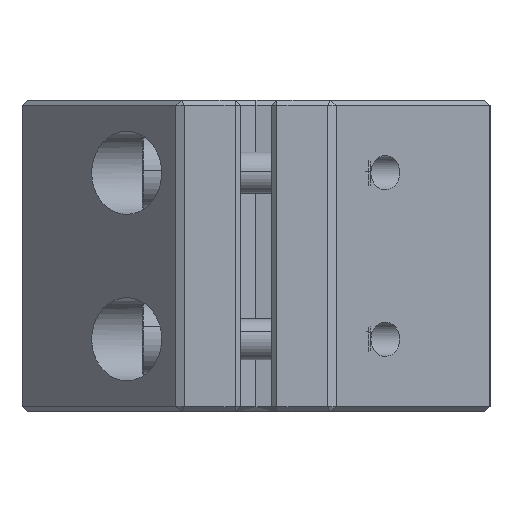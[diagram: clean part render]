
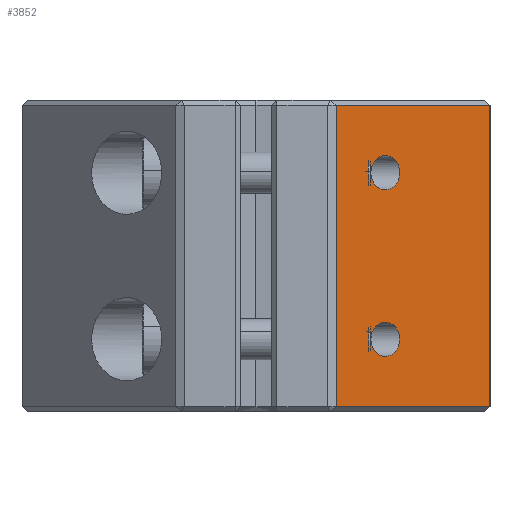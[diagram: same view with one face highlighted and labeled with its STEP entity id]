
A CAD part, left-side view. The second image highlights one B-rep face of the part: STEP entity #3852.
In plain terms, the highlighted planar face has unit normal (-0.643, -0.766, 0).
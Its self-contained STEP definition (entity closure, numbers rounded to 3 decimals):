
#166 = ORIENTED_EDGE ( 'NONE', *, *, #4554, .T. ) ;
#227 = CARTESIAN_POINT ( 'NONE',  ( -36.7, -15.2, 5.35 ) ) ;
#289 = CARTESIAN_POINT ( 'NONE',  ( -45.617, -7.718, 0.5 ) ) ;
#398 = ORIENTED_EDGE ( 'NONE', *, *, #6277, .T. ) ;
#475 = FACE_BOUND ( 'NONE', #1945, .T. ) ;
#567 = CARTESIAN_POINT ( 'NONE',  ( -45.617, -7.718, 29.5 ) ) ;
#625 = CARTESIAN_POINT ( 'NONE',  ( -40., -12.431, 8.65 ) ) ;
#701 = VERTEX_POINT ( 'NONE', #567 ) ;
#703 = VECTOR ( 'NONE', #8108, 1000. ) ;
#1350 =( BOUNDED_CURVE ( )  B_SPLINE_CURVE ( 3, ( #3798, #6950, #10087, #3018 ),
 .UNSPECIFIED., .F., .F. ) 
 B_SPLINE_CURVE_WITH_KNOTS ( ( 4, 4 ),
 ( 4.712, 7.854 ),
 .UNSPECIFIED. ) 
 CURVE ( )  GEOMETRIC_REPRESENTATION_ITEM ( )  RATIONAL_B_SPLINE_CURVE ( ( 1., 0.333, 0.333, 1. ) ) 
 REPRESENTATION_ITEM ( '' )  );
#1404 = ORIENTED_EDGE ( 'NONE', *, *, #7867, .T. ) ;
#1423 = EDGE_LOOP ( 'NONE', ( #2267, #1404, #7214, #1812 ) ) ;
#1625 = VERTEX_POINT ( 'NONE', #625 ) ;
#1812 = ORIENTED_EDGE ( 'NONE', *, *, #5872, .T. ) ;
#1820 = LINE ( 'NONE', #4960, #703 ) ;
#1945 = EDGE_LOOP ( 'NONE', ( #398, #4738 ) ) ;
#2202 = AXIS2_PLACEMENT_3D ( 'NONE', #6763, #9907, #2837 ) ;
#2267 = ORIENTED_EDGE ( 'NONE', *, *, #6300, .T. ) ;
#2604 = DIRECTION ( 'NONE',  ( -0.766, 0.643, 0. ) ) ;
#2837 = DIRECTION ( 'NONE',  ( 0., 0., -1. ) ) ;
#2848 = CARTESIAN_POINT ( 'NONE',  ( -36.7, -15.2, 24.65 ) ) ;
#2955 = DIRECTION ( 'NONE',  ( 0.766, -0.643, 0. ) ) ;
#2961 = VERTEX_POINT ( 'NONE', #4029 ) ;
#3018 = CARTESIAN_POINT ( 'NONE',  ( -40., -12.431, 24.65 ) ) ;
#3020 = CARTESIAN_POINT ( 'NONE',  ( -43.3, -9.662, 5.35 ) ) ;
#3060 = LINE ( 'NONE', #6218, #10003 ) ;
#3074 = ORIENTED_EDGE ( 'NONE', *, *, #6017, .T. ) ;
#3223 = EDGE_CURVE ( 'NONE', #6375, #1625, #9451, .T. ) ;
#3360 = CARTESIAN_POINT ( 'NONE',  ( -40., -12.431, 5.35 ) ) ;
#3470 = VERTEX_POINT ( 'NONE', #7644 ) ;
#3606 = PLANE ( 'NONE',  #2202 ) ;
#3798 = CARTESIAN_POINT ( 'NONE',  ( -40., -12.431, 21.35 ) ) ;
#3852 = ADVANCED_FACE ( 'NONE', ( #4390, #7533, #475 ), #3606, .F. ) ;
#4029 = CARTESIAN_POINT ( 'NONE',  ( -40., -12.431, 24.65 ) ) ;
#4138 = CARTESIAN_POINT ( 'NONE',  ( -40., -12.431, 8.65 ) ) ;
#4390 = FACE_OUTER_BOUND ( 'NONE', #1423, .T. ) ;
#4508 =( BOUNDED_CURVE ( )  B_SPLINE_CURVE ( 3, ( #9918, #2848, #6002, #9143 ),
 .UNSPECIFIED., .F., .F. ) 
 B_SPLINE_CURVE_WITH_KNOTS ( ( 4, 4 ),
 ( 1.571, 4.712 ),
 .UNSPECIFIED. ) 
 CURVE ( )  GEOMETRIC_REPRESENTATION_ITEM ( )  RATIONAL_B_SPLINE_CURVE ( ( 1., 0.333, 0.333, 1. ) ) 
 REPRESENTATION_ITEM ( '' )  );
#4515 = CARTESIAN_POINT ( 'NONE',  ( -28., -22.5, 0.5 ) ) ;
#4517 = VERTEX_POINT ( 'NONE', #4515 ) ;
#4554 = EDGE_CURVE ( 'NONE', #3470, #2961, #1350, .T. ) ;
#4738 = ORIENTED_EDGE ( 'NONE', *, *, #3223, .T. ) ;
#4960 = CARTESIAN_POINT ( 'NONE',  ( -45.617, -7.718, 0. ) ) ;
#5441 = EDGE_LOOP ( 'NONE', ( #3074, #166 ) ) ;
#5872 = EDGE_CURVE ( 'NONE', #9954, #701, #6534, .T. ) ;
#5887 = CARTESIAN_POINT ( 'NONE',  ( -40., -12.431, 5.35 ) ) ;
#5890 = VERTEX_POINT ( 'NONE', #289 ) ;
#6002 = CARTESIAN_POINT ( 'NONE',  ( -36.7, -15.2, 21.35 ) ) ;
#6017 = EDGE_CURVE ( 'NONE', #2961, #3470, #4508, .T. ) ;
#6180 = CARTESIAN_POINT ( 'NONE',  ( -43.3, -9.662, 8.65 ) ) ;
#6218 = CARTESIAN_POINT ( 'NONE',  ( -28., -22.5, 30. ) ) ;
#6277 = EDGE_CURVE ( 'NONE', #1625, #6375, #6623, .T. ) ;
#6300 = EDGE_CURVE ( 'NONE', #701, #5890, #1820, .T. ) ;
#6375 = VERTEX_POINT ( 'NONE', #5887 ) ;
#6534 = LINE ( 'NONE', #9672, #9404 ) ;
#6623 =( BOUNDED_CURVE ( )  B_SPLINE_CURVE ( 3, ( #4138, #7286, #227, #3360 ),
 .UNSPECIFIED., .F., .F. ) 
 B_SPLINE_CURVE_WITH_KNOTS ( ( 4, 4 ),
 ( 1.571, 4.712 ),
 .UNSPECIFIED. ) 
 CURVE ( )  GEOMETRIC_REPRESENTATION_ITEM ( )  RATIONAL_B_SPLINE_CURVE ( ( 1., 0.333, 0.333, 1. ) ) 
 REPRESENTATION_ITEM ( '' )  );
#6763 = CARTESIAN_POINT ( 'NONE',  ( -28., -22.5, 30. ) ) ;
#6885 = LINE ( 'NONE', #10027, #9177 ) ;
#6950 = CARTESIAN_POINT ( 'NONE',  ( -43.3, -9.662, 21.35 ) ) ;
#7100 = CARTESIAN_POINT ( 'NONE',  ( -28., -22.5, 29.5 ) ) ;
#7214 = ORIENTED_EDGE ( 'NONE', *, *, #7919, .F. ) ;
#7286 = CARTESIAN_POINT ( 'NONE',  ( -36.7, -15.2, 8.65 ) ) ;
#7533 = FACE_BOUND ( 'NONE', #5441, .T. ) ;
#7644 = CARTESIAN_POINT ( 'NONE',  ( -40., -12.431, 21.35 ) ) ;
#7867 = EDGE_CURVE ( 'NONE', #5890, #4517, #6885, .T. ) ;
#7919 = EDGE_CURVE ( 'NONE', #9954, #4517, #3060, .T. ) ;
#8108 = DIRECTION ( 'NONE',  ( 0., 0., -1. ) ) ;
#9143 = CARTESIAN_POINT ( 'NONE',  ( -40., -12.431, 21.35 ) ) ;
#9177 = VECTOR ( 'NONE', #2955, 1000. ) ;
#9319 = CARTESIAN_POINT ( 'NONE',  ( -40., -12.431, 8.65 ) ) ;
#9352 = DIRECTION ( 'NONE',  ( 0., 0., -1. ) ) ;
#9404 = VECTOR ( 'NONE', #2604, 1000. ) ;
#9451 =( BOUNDED_CURVE ( )  B_SPLINE_CURVE ( 3, ( #10089, #3020, #6180, #9319 ),
 .UNSPECIFIED., .F., .F. ) 
 B_SPLINE_CURVE_WITH_KNOTS ( ( 4, 4 ),
 ( 4.712, 7.854 ),
 .UNSPECIFIED. ) 
 CURVE ( )  GEOMETRIC_REPRESENTATION_ITEM ( )  RATIONAL_B_SPLINE_CURVE ( ( 1., 0.333, 0.333, 1. ) ) 
 REPRESENTATION_ITEM ( '' )  );
#9672 = CARTESIAN_POINT ( 'NONE',  ( -28., -22.5, 29.5 ) ) ;
#9907 = DIRECTION ( 'NONE',  ( 0.643, 0.766, 0. ) ) ;
#9918 = CARTESIAN_POINT ( 'NONE',  ( -40., -12.431, 24.65 ) ) ;
#9954 = VERTEX_POINT ( 'NONE', #7100 ) ;
#10003 = VECTOR ( 'NONE', #9352, 1000. ) ;
#10027 = CARTESIAN_POINT ( 'NONE',  ( -28., -22.5, 0.5 ) ) ;
#10087 = CARTESIAN_POINT ( 'NONE',  ( -43.3, -9.662, 24.65 ) ) ;
#10089 = CARTESIAN_POINT ( 'NONE',  ( -40., -12.431, 5.35 ) ) ;
